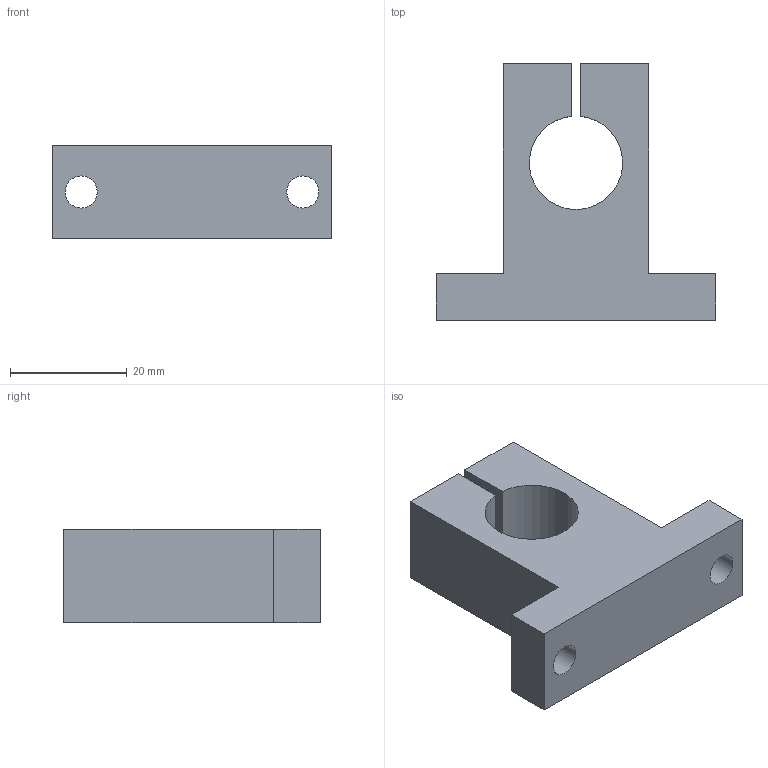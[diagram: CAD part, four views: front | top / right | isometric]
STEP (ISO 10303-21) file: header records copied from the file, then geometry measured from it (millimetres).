
FILE_DESCRIPTION( ( 'STEP AP203' ), '1' );
FILE_NAME( 'p:/temp/worker_7/temp/exporttempdir_3448_430_HaKeA/format_0/SK16.stp', '2020-05-08T01:32:24', ( 'License CC BY-ND 4.0' ), ( 'CADENAS' ), ' ', 'PARTsolutions', ' ' );
FILE_SCHEMA( ( 'CONFIG_CONTROL_DESIGN' ) );
Length unit declared in the file: millimetre
Products named in the file (1): _SK16
Bounding box: 48 x 44 x 16 mm (x, y, z)
Volume: 16716.1 mm3; surface area: 6304.7 mm2
Topology: 1 solids, 1 shells, 16 faces, 42 edges, 28 vertices
Faces by surface type: plane 13, cylinder 3
Full cylindrical faces by diameter (mm): 5.5 x2
Entity records: 534 total; most frequent: CARTESIAN_POINT 85, DIRECTION 80, ORIENTED_EDGE 80, EDGE_CURVE 40, LINE 34, VECTOR 34, VERTEX_POINT 28, AXIS2_PLACEMENT_3D 23
